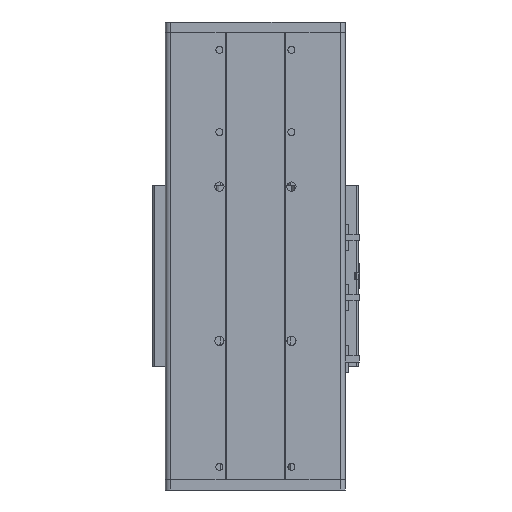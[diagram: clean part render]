
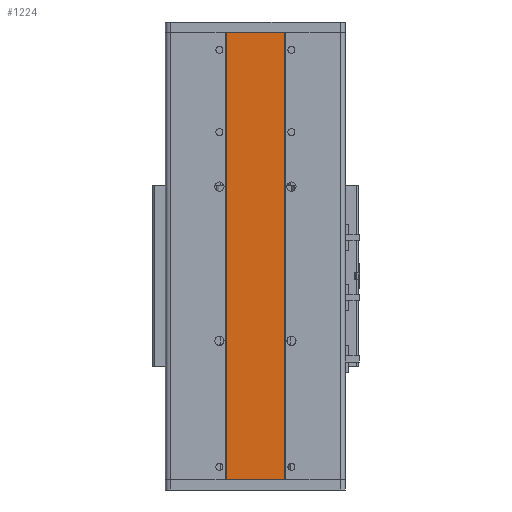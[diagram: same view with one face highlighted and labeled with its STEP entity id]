
A CAD part, front view. The second image highlights one B-rep face of the part: STEP entity #1224.
In plain terms, the highlighted planar face has unit normal (0, -1, 0).
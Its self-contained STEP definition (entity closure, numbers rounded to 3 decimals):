
#190 = LINE ( 'NONE', #619, #11828 ) ;
#270 = ORIENTED_EDGE ( 'NONE', *, *, #23054, .F. ) ;
#619 = CARTESIAN_POINT ( 'NONE',  ( 1.27, -85.314, 435. ) ) ;
#1224 = ADVANCED_FACE ( 'NONE', ( #10500 ), #22254, .F. ) ;
#2894 = VECTOR ( 'NONE', #27595, 1000. ) ;
#3603 = CARTESIAN_POINT ( 'NONE',  ( 0., -85.314, 0. ) ) ;
#3612 = LINE ( 'NONE', #6679, #2894 ) ;
#5148 = EDGE_CURVE ( 'NONE', #12250, #26770, #190, .T. ) ;
#6679 = CARTESIAN_POINT ( 'NONE',  ( 1.27, -85.314, -1445. ) ) ;
#6698 = CARTESIAN_POINT ( 'NONE',  ( 1.27, -85.314, 435. ) ) ;
#7182 = LINE ( 'NONE', #3603, #11943 ) ;
#8376 = CARTESIAN_POINT ( 'NONE',  ( 1.27, -85.314, -1445. ) ) ;
#10303 = LINE ( 'NONE', #24498, #28073 ) ;
#10500 = FACE_OUTER_BOUND ( 'NONE', #13728, .T. ) ;
#10660 = DIRECTION ( 'NONE',  ( -1., 0., 0. ) ) ;
#10710 = DIRECTION ( 'NONE',  ( 0., 0., 1. ) ) ;
#11625 = VERTEX_POINT ( 'NONE', #27384 ) ;
#11828 = VECTOR ( 'NONE', #16866, 1000. ) ;
#11943 = VECTOR ( 'NONE', #10660, 1000. ) ;
#12250 = VERTEX_POINT ( 'NONE', #29921 ) ;
#13368 = CARTESIAN_POINT ( 'NONE',  ( 1.27, -85.314, 0. ) ) ;
#13728 = EDGE_LOOP ( 'NONE', ( #22327, #23974, #270, #14152 ) ) ;
#14152 = ORIENTED_EDGE ( 'NONE', *, *, #24776, .F. ) ;
#16866 = DIRECTION ( 'NONE',  ( -1., 0., 0. ) ) ;
#19749 = DIRECTION ( 'NONE',  ( 0., 0., 1. ) ) ;
#20575 = VERTEX_POINT ( 'NONE', #13368 ) ;
#22254 = PLANE ( 'NONE',  #25264 ) ;
#22327 = ORIENTED_EDGE ( 'NONE', *, *, #28250, .T. ) ;
#23054 = EDGE_CURVE ( 'NONE', #20575, #26770, #3612, .T. ) ;
#23974 = ORIENTED_EDGE ( 'NONE', *, *, #5148, .T. ) ;
#24498 = CARTESIAN_POINT ( 'NONE',  ( 58.27, -85.314, -1445. ) ) ;
#24610 = DIRECTION ( 'NONE',  ( 0., 1., 0. ) ) ;
#24776 = EDGE_CURVE ( 'NONE', #11625, #20575, #7182, .T. ) ;
#25264 = AXIS2_PLACEMENT_3D ( 'NONE', #8376, #24610, #10710 ) ;
#26770 = VERTEX_POINT ( 'NONE', #6698 ) ;
#27384 = CARTESIAN_POINT ( 'NONE',  ( 58.27, -85.314, 0. ) ) ;
#27595 = DIRECTION ( 'NONE',  ( 0., 0., 1. ) ) ;
#28073 = VECTOR ( 'NONE', #19749, 1000. ) ;
#28250 = EDGE_CURVE ( 'NONE', #11625, #12250, #10303, .T. ) ;
#29921 = CARTESIAN_POINT ( 'NONE',  ( 58.27, -85.314, 435. ) ) ;
